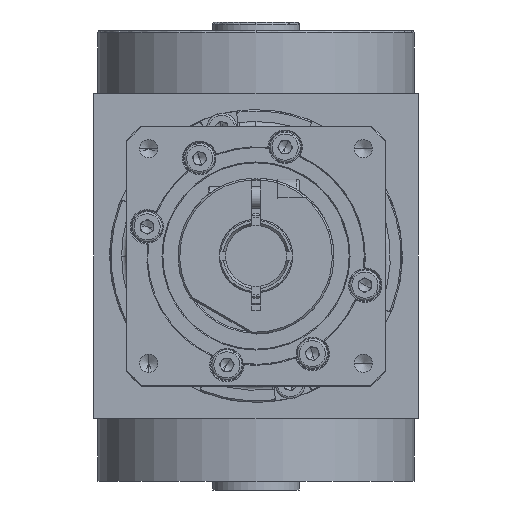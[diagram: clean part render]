
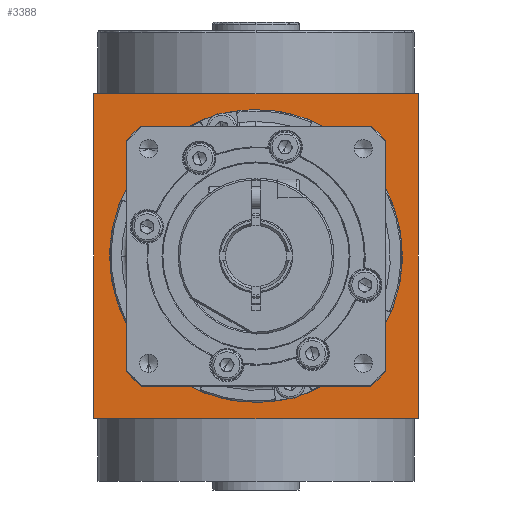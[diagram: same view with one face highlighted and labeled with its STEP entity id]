
A CAD part, front view. The second image highlights one B-rep face of the part: STEP entity #3388.
In plain terms, the highlighted planar face has unit normal (0, -1, 0).
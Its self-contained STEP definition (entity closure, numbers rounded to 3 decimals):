
#107 = DIRECTION ( 'NONE',  ( 0., 1., 0. ) ) ;
#131 = DIRECTION ( 'NONE',  ( 1., 0., 0. ) ) ;
#1199 = CARTESIAN_POINT ( 'NONE',  ( -37.5, -37.5, -37.5 ) ) ;
#1264 = ORIENTED_EDGE ( 'NONE', *, *, #4064, .T. ) ;
#2022 = EDGE_CURVE ( 'NONE', #22902, #20094, #13028, .T. ) ;
#2026 = EDGE_CURVE ( 'NONE', #6727, #20094, #31921, .T. ) ;
#2364 = CARTESIAN_POINT ( 'NONE',  ( -37.5, -37.5, -37.5 ) ) ;
#2588 = DIRECTION ( 'NONE',  ( 0., 0., 1. ) ) ;
#2749 = AXIS2_PLACEMENT_3D ( 'NONE', #11254, #19619, #3611 ) ;
#2780 = CARTESIAN_POINT ( 'NONE',  ( 30., -37.5, -26.458 ) ) ;
#2843 = ORIENTED_EDGE ( 'NONE', *, *, #19766, .T. ) ;
#3073 = CARTESIAN_POINT ( 'NONE',  ( 37.5, -37.5, -37.5 ) ) ;
#3178 = VERTEX_POINT ( 'NONE', #13211 ) ;
#3388 = ADVANCED_FACE ( 'NONE', ( #9192, #21929 ), #11802, .T. ) ;
#3576 = ORIENTED_EDGE ( 'NONE', *, *, #29079, .T. ) ;
#3611 = DIRECTION ( 'NONE',  ( 0., 0., 1. ) ) ;
#4064 = EDGE_CURVE ( 'NONE', #7589, #22560, #34463, .T. ) ;
#4700 = LINE ( 'NONE', #26459, #18155 ) ;
#5276 = CARTESIAN_POINT ( 'NONE',  ( 30., -37.5, -37.5 ) ) ;
#5565 = AXIS2_PLACEMENT_3D ( 'NONE', #10551, #107, #20854 ) ;
#6123 = CARTESIAN_POINT ( 'NONE',  ( -26.458, -37.5, -30. ) ) ;
#6667 = VECTOR ( 'NONE', #131, 1000. ) ;
#6727 = VERTEX_POINT ( 'NONE', #2364 ) ;
#6958 = CARTESIAN_POINT ( 'NONE',  ( 30., -37.5, 26.458 ) ) ;
#7181 = CARTESIAN_POINT ( 'NONE',  ( -30., -37.5, 26.458 ) ) ;
#7589 = VERTEX_POINT ( 'NONE', #6958 ) ;
#7638 = CARTESIAN_POINT ( 'NONE',  ( 26.458, -37.5, -30. ) ) ;
#7968 = CARTESIAN_POINT ( 'NONE',  ( 0., -37.5, -37.5 ) ) ;
#8513 = ORIENTED_EDGE ( 'NONE', *, *, #15509, .F. ) ;
#8514 = VERTEX_POINT ( 'NONE', #6123 ) ;
#9055 = DIRECTION ( 'NONE',  ( 0., 0., 1. ) ) ;
#9065 = DIRECTION ( 'NONE',  ( 0., 0., 1. ) ) ;
#9192 = FACE_BOUND ( 'NONE', #16829, .T. ) ;
#9409 = ORIENTED_EDGE ( 'NONE', *, *, #15592, .T. ) ;
#9830 = ORIENTED_EDGE ( 'NONE', *, *, #26139, .T. ) ;
#10398 = DIRECTION ( 'NONE',  ( 0., 0., -1. ) ) ;
#10551 = CARTESIAN_POINT ( 'NONE',  ( 0., -37.5, 0. ) ) ;
#10807 = CARTESIAN_POINT ( 'NONE',  ( -30., -37.5, -26.458 ) ) ;
#11254 = CARTESIAN_POINT ( 'NONE',  ( 0., -37.5, 0. ) ) ;
#11802 = PLANE ( 'NONE',  #22824 ) ;
#13028 = LINE ( 'NONE', #34371, #17785 ) ;
#13211 = CARTESIAN_POINT ( 'NONE',  ( -37.5, -37.5, 37.5 ) ) ;
#15177 = EDGE_CURVE ( 'NONE', #8514, #27459, #15936, .T. ) ;
#15509 = EDGE_CURVE ( 'NONE', #3178, #22902, #34347, .T. ) ;
#15592 = EDGE_CURVE ( 'NONE', #33554, #34337, #31554, .T. ) ;
#15626 = CARTESIAN_POINT ( 'NONE',  ( 0., -37.5, 37.5 ) ) ;
#15936 = CIRCLE ( 'NONE', #29350, 40. ) ;
#16336 = EDGE_CURVE ( 'NONE', #6727, #3178, #4700, .T. ) ;
#16652 = CARTESIAN_POINT ( 'NONE',  ( -26.458, -37.5, 30. ) ) ;
#16829 = EDGE_LOOP ( 'NONE', ( #9409, #27616, #1264, #3576, #23456, #21872, #2843, #9830 ) ) ;
#17785 = VECTOR ( 'NONE', #10398, 1000. ) ;
#18135 = AXIS2_PLACEMENT_3D ( 'NONE', #28275, #30913, #9065 ) ;
#18155 = VECTOR ( 'NONE', #2588, 1000. ) ;
#18830 = CARTESIAN_POINT ( 'NONE',  ( 26.458, -37.5, 30. ) ) ;
#18956 = CARTESIAN_POINT ( 'NONE',  ( 0., -37.5, 0. ) ) ;
#19132 = LINE ( 'NONE', #24200, #29662 ) ;
#19619 = DIRECTION ( 'NONE',  ( 0., 1., 0. ) ) ;
#19766 = EDGE_CURVE ( 'NONE', #27459, #32943, #20029, .T. ) ;
#19856 = VECTOR ( 'NONE', #26445, 1000. ) ;
#20029 = LINE ( 'NONE', #27740, #30062 ) ;
#20094 = VERTEX_POINT ( 'NONE', #3073 ) ;
#20854 = DIRECTION ( 'NONE',  ( 0., 0., 1. ) ) ;
#21754 = DIRECTION ( 'NONE',  ( 0., 0., 1. ) ) ;
#21872 = ORIENTED_EDGE ( 'NONE', *, *, #15177, .T. ) ;
#21929 = FACE_OUTER_BOUND ( 'NONE', #29328, .T. ) ;
#22101 = DIRECTION ( 'NONE',  ( 0., -1., 0. ) ) ;
#22550 = EDGE_CURVE ( 'NONE', #27768, #8514, #19132, .T. ) ;
#22560 = VERTEX_POINT ( 'NONE', #2780 ) ;
#22824 = AXIS2_PLACEMENT_3D ( 'NONE', #1199, #22101, #32634 ) ;
#22902 = VERTEX_POINT ( 'NONE', #28406 ) ;
#23456 = ORIENTED_EDGE ( 'NONE', *, *, #22550, .T. ) ;
#24022 = DIRECTION ( 'NONE',  ( -1., 0., 0. ) ) ;
#24200 = CARTESIAN_POINT ( 'NONE',  ( -37.5, -37.5, -30. ) ) ;
#24687 = DIRECTION ( 'NONE',  ( 1., 0., 0. ) ) ;
#24895 = VECTOR ( 'NONE', #24687, 1000. ) ;
#26139 = EDGE_CURVE ( 'NONE', #32943, #33554, #27072, .T. ) ;
#26445 = DIRECTION ( 'NONE',  ( 1., 0., 0. ) ) ;
#26459 = CARTESIAN_POINT ( 'NONE',  ( -37.5, -37.5, -37.5 ) ) ;
#26676 = CIRCLE ( 'NONE', #2749, 40. ) ;
#27072 = CIRCLE ( 'NONE', #18135, 40. ) ;
#27181 = DIRECTION ( 'NONE',  ( 0., 1., 0. ) ) ;
#27459 = VERTEX_POINT ( 'NONE', #10807 ) ;
#27616 = ORIENTED_EDGE ( 'NONE', *, *, #29231, .T. ) ;
#27740 = CARTESIAN_POINT ( 'NONE',  ( -30., -37.5, -37.5 ) ) ;
#27768 = VERTEX_POINT ( 'NONE', #7638 ) ;
#28275 = CARTESIAN_POINT ( 'NONE',  ( 0., -37.5, 0. ) ) ;
#28406 = CARTESIAN_POINT ( 'NONE',  ( 37.5, -37.5, 37.5 ) ) ;
#28702 = DIRECTION ( 'NONE',  ( 0., 0., -1. ) ) ;
#29079 = EDGE_CURVE ( 'NONE', #22560, #27768, #32925, .T. ) ;
#29231 = EDGE_CURVE ( 'NONE', #34337, #7589, #26676, .T. ) ;
#29328 = EDGE_LOOP ( 'NONE', ( #29383, #8513, #33379, #31644 ) ) ;
#29350 = AXIS2_PLACEMENT_3D ( 'NONE', #18956, #27181, #21754 ) ;
#29383 = ORIENTED_EDGE ( 'NONE', *, *, #2022, .F. ) ;
#29662 = VECTOR ( 'NONE', #24022, 1000. ) ;
#29789 = CARTESIAN_POINT ( 'NONE',  ( -37.5, -37.5, 30. ) ) ;
#30062 = VECTOR ( 'NONE', #9055, 1000. ) ;
#30913 = DIRECTION ( 'NONE',  ( 0., 1., 0. ) ) ;
#31554 = LINE ( 'NONE', #29789, #24895 ) ;
#31644 = ORIENTED_EDGE ( 'NONE', *, *, #2026, .T. ) ;
#31797 = VECTOR ( 'NONE', #28702, 1000. ) ;
#31921 = LINE ( 'NONE', #7968, #6667 ) ;
#32634 = DIRECTION ( 'NONE',  ( 0., 0., -1. ) ) ;
#32925 = CIRCLE ( 'NONE', #5565, 40. ) ;
#32943 = VERTEX_POINT ( 'NONE', #7181 ) ;
#33379 = ORIENTED_EDGE ( 'NONE', *, *, #16336, .F. ) ;
#33554 = VERTEX_POINT ( 'NONE', #16652 ) ;
#34337 = VERTEX_POINT ( 'NONE', #18830 ) ;
#34347 = LINE ( 'NONE', #15626, #19856 ) ;
#34371 = CARTESIAN_POINT ( 'NONE',  ( 37.5, -37.5, -37.5 ) ) ;
#34463 = LINE ( 'NONE', #5276, #31797 ) ;
